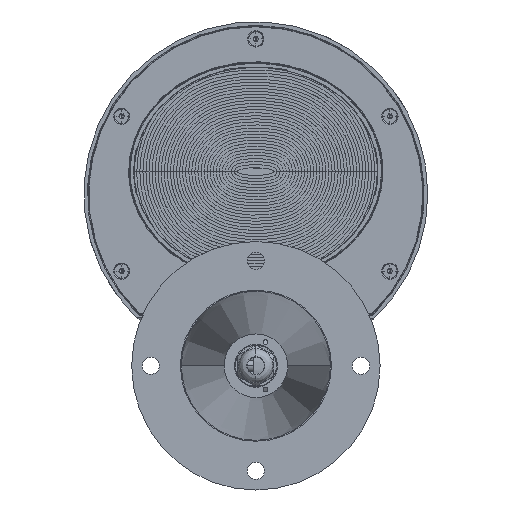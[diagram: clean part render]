
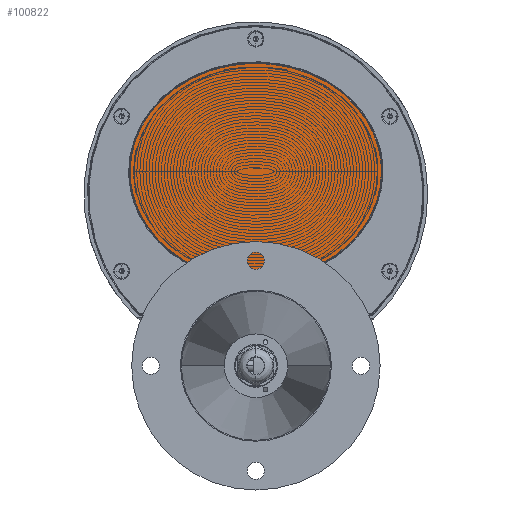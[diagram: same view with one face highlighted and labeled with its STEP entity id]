
A CAD part, front view. The second image highlights one B-rep face of the part: STEP entity #100822.
In plain terms, the highlighted planar face has unit normal (0, -1, 0) as drawn and (0, 0, -1) by its records, which use the part's own axes.
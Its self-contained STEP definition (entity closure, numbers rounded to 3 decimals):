
#92387=CARTESIAN_POINT('',(-65.741,-11.625,-5.));
#92388=CARTESIAN_POINT('',(-65.741,-14.164,-5.));
#92389=CARTESIAN_POINT('',(-65.343,-19.276,-5.));
#92390=CARTESIAN_POINT('',(-63.517,-26.914,-5.));
#92391=CARTESIAN_POINT('',(-60.428,-34.387,-5.));
#92392=CARTESIAN_POINT('',(-56.063,-41.566,-5.));
#92393=CARTESIAN_POINT('',(-50.395,-48.293,-5.));
#92394=CARTESIAN_POINT('',(-43.443,-54.408,-5.));
#92395=CARTESIAN_POINT('',(-35.265,-59.671,-5.));
#92396=CARTESIAN_POINT('',(-25.994,-63.89,-5.));
#92397=CARTESIAN_POINT('',(-15.915,-66.808,-5.));
#92398=CARTESIAN_POINT('',(-5.247,-68.311,-5.));
#92399=CARTESIAN_POINT('',(5.495,-68.293,-5.));
#92400=CARTESIAN_POINT('',(16.157,-66.756,-5.));
#92401=CARTESIAN_POINT('',(26.217,-63.807,-5.));
#92402=CARTESIAN_POINT('',(35.468,-59.56,-5.));
#92403=CARTESIAN_POINT('',(43.617,-54.275,-5.));
#92404=CARTESIAN_POINT('',(50.54,-48.146,-5.));
#92405=CARTESIAN_POINT('',(56.182,-41.399,-5.));
#92406=CARTESIAN_POINT('',(60.511,-34.221,-5.));
#92407=CARTESIAN_POINT('',(63.57,-26.749,-5.));
#92408=CARTESIAN_POINT('',(65.36,-19.143,-5.));
#92409=CARTESIAN_POINT('',(65.743,-14.105,-5.));
#92410=CARTESIAN_POINT('',(65.741,-11.625,-5.));
#92412=CARTESIAN_POINT('',(65.741,-11.625,-5.));
#92413=CARTESIAN_POINT('',(65.741,-9.086,-5.));
#92414=CARTESIAN_POINT('',(65.343,-3.974,-5.));
#92415=CARTESIAN_POINT('',(63.517,3.664,-5.));
#92416=CARTESIAN_POINT('',(60.428,11.137,-5.));
#92417=CARTESIAN_POINT('',(56.063,18.316,-5.));
#92418=CARTESIAN_POINT('',(50.395,25.043,-5.));
#92419=CARTESIAN_POINT('',(43.443,31.158,-5.));
#92420=CARTESIAN_POINT('',(35.265,36.421,-5.));
#92421=CARTESIAN_POINT('',(25.994,40.64,-5.));
#92422=CARTESIAN_POINT('',(15.915,43.558,-5.));
#92423=CARTESIAN_POINT('',(5.247,45.061,-5.));
#92424=CARTESIAN_POINT('',(-5.495,45.043,-5.));
#92425=CARTESIAN_POINT('',(-16.157,43.506,-5.));
#92426=CARTESIAN_POINT('',(-26.217,40.557,-5.));
#92427=CARTESIAN_POINT('',(-35.468,36.31,-5.));
#92428=CARTESIAN_POINT('',(-43.617,31.025,-5.));
#92429=CARTESIAN_POINT('',(-50.54,24.896,-5.));
#92430=CARTESIAN_POINT('',(-56.182,18.149,-5.));
#92431=CARTESIAN_POINT('',(-60.511,10.971,-5.));
#92432=CARTESIAN_POINT('',(-63.57,3.499,-5.));
#92433=CARTESIAN_POINT('',(-65.36,-4.107,-5.));
#92434=CARTESIAN_POINT('',(-65.743,-9.145,-5.));
#92435=CARTESIAN_POINT('',(-65.741,-11.625,-5.));
#100301=VERTEX_POINT('',#92387);
#100302=VERTEX_POINT('',#92410);
#100811=CARTESIAN_POINT('',(0.,0.,-5.));
#100812=DIRECTION('',(0.,0.,-1.));
#100813=DIRECTION('',(-1.,0.,0.));
#100814=AXIS2_PLACEMENT_3D('',#100811,#100812,#100813);
#100815=PLANE('',#100814);
#100817=ORIENTED_EDGE('',*,*,#100816,.T.);
#100819=ORIENTED_EDGE('',*,*,#100818,.T.);
#100820=EDGE_LOOP('',(#100817,#100819));
#100821=FACE_OUTER_BOUND('',#100820,.F.);
#100822=ADVANCED_FACE('',(#100821),#100815,.T.);
#92411=B_SPLINE_CURVE_WITH_KNOTS('',3,(#92387,#92388,#92389,#92390,#92391,
#92392,#92393,#92394,#92395,#92396,#92397,#92398,#92399,#92400,#92401,#92402,
#92403,#92404,#92405,#92406,#92407,#92408,#92409,#92410),.UNSPECIFIED.,.F.,.F.,(
4,1,1,1,1,1,1,1,1,1,1,1,1,1,1,1,1,1,1,1,1,4),(0.,0.048,
0.095,0.143,0.19,0.238,
0.286,0.333,0.381,0.429,
0.476,0.524,0.571,0.619,
0.667,0.714,0.762,0.81,
0.857,0.905,0.952,1.),.UNSPECIFIED.);
#92436=B_SPLINE_CURVE_WITH_KNOTS('',3,(#92412,#92413,#92414,#92415,#92416,
#92417,#92418,#92419,#92420,#92421,#92422,#92423,#92424,#92425,#92426,#92427,
#92428,#92429,#92430,#92431,#92432,#92433,#92434,#92435),.UNSPECIFIED.,.F.,.F.,(
4,1,1,1,1,1,1,1,1,1,1,1,1,1,1,1,1,1,1,1,1,4),(0.,0.048,
0.095,0.143,0.19,0.238,
0.286,0.333,0.381,0.429,
0.476,0.524,0.571,0.619,
0.667,0.714,0.762,0.81,
0.857,0.905,0.952,1.),.UNSPECIFIED.);
#100816=EDGE_CURVE('',#100301,#100302,#92411,.T.);
#100818=EDGE_CURVE('',#100302,#100301,#92436,.T.);
